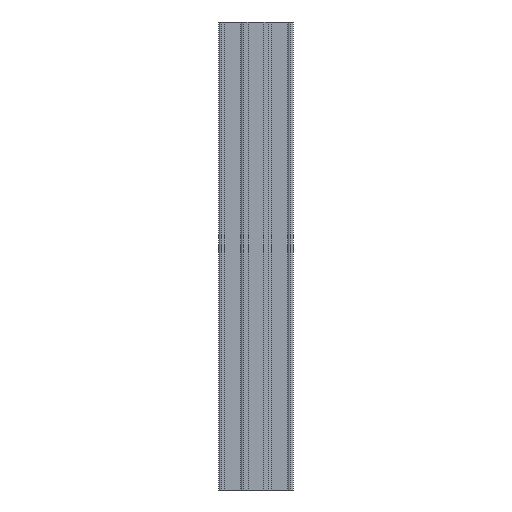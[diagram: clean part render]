
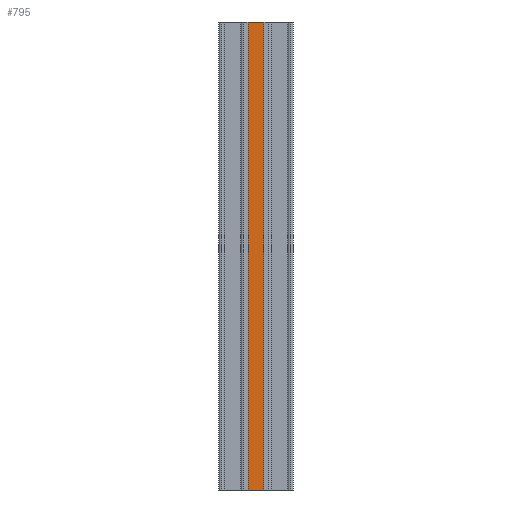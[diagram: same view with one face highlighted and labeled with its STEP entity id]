
A CAD part, left-side view. The second image highlights one B-rep face of the part: STEP entity #795.
In plain terms, the highlighted planar face has unit normal (-1, 0, 0).
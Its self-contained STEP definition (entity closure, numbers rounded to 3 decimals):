
#12 = PLANE ( 'NONE',  #507 ) ;
#61 = ORIENTED_EDGE ( 'NONE', *, *, #294, .T. ) ;
#127 = LINE ( 'NONE', #893, #319 ) ;
#142 = ORIENTED_EDGE ( 'NONE', *, *, #401, .F. ) ;
#153 = CARTESIAN_POINT ( 'NONE',  ( -1.5, -18.5, 250. ) ) ;
#228 = CARTESIAN_POINT ( 'NONE',  ( -1.5, -18.5, 250. ) ) ;
#251 = VERTEX_POINT ( 'NONE', #228 ) ;
#266 = VECTOR ( 'NONE', #712, 1000. ) ;
#286 = EDGE_CURVE ( 'NONE', #338, #251, #1112, .T. ) ;
#294 = EDGE_CURVE ( 'NONE', #600, #1213, #127, .T. ) ;
#319 = VECTOR ( 'NONE', #1310, 1000. ) ;
#338 = VERTEX_POINT ( 'NONE', #460 ) ;
#401 = EDGE_CURVE ( 'NONE', #251, #1213, #1334, .T. ) ;
#448 = DIRECTION ( 'NONE',  ( 0., 0., -1. ) ) ;
#460 = CARTESIAN_POINT ( 'NONE',  ( -1.5, 18.5, 250. ) ) ;
#507 = AXIS2_PLACEMENT_3D ( 'NONE', #1195, #872, #448 ) ;
#546 = DIRECTION ( 'NONE',  ( 0., -1., 0. ) ) ;
#570 = DIRECTION ( 'NONE',  ( 0., 0., -1. ) ) ;
#590 = EDGE_LOOP ( 'NONE', ( #61, #142, #1126, #980 ) ) ;
#597 = CARTESIAN_POINT ( 'NONE',  ( -1.5, 18.5, 250. ) ) ;
#600 = VERTEX_POINT ( 'NONE', #1250 ) ;
#668 = CARTESIAN_POINT ( 'NONE',  ( -1.5, 18.5, 250. ) ) ;
#712 = DIRECTION ( 'NONE',  ( 0., 0., -1. ) ) ;
#726 = FACE_OUTER_BOUND ( 'NONE', #590, .T. ) ;
#776 = CARTESIAN_POINT ( 'NONE',  ( -1.5, -18.5, 0. ) ) ;
#795 = ADVANCED_FACE ( 'NONE', ( #726 ), #12, .F. ) ;
#872 = DIRECTION ( 'NONE',  ( 1., 0., 0. ) ) ;
#893 = CARTESIAN_POINT ( 'NONE',  ( -1.5, 18.5, 0. ) ) ;
#947 = VECTOR ( 'NONE', #546, 1000. ) ;
#954 = LINE ( 'NONE', #597, #266 ) ;
#980 = ORIENTED_EDGE ( 'NONE', *, *, #1074, .T. ) ;
#1074 = EDGE_CURVE ( 'NONE', #338, #600, #954, .T. ) ;
#1112 = LINE ( 'NONE', #668, #947 ) ;
#1126 = ORIENTED_EDGE ( 'NONE', *, *, #286, .F. ) ;
#1195 = CARTESIAN_POINT ( 'NONE',  ( -1.5, 18.5, 250. ) ) ;
#1213 = VERTEX_POINT ( 'NONE', #776 ) ;
#1250 = CARTESIAN_POINT ( 'NONE',  ( -1.5, 18.5, 0. ) ) ;
#1264 = VECTOR ( 'NONE', #570, 1000. ) ;
#1310 = DIRECTION ( 'NONE',  ( 0., -1., 0. ) ) ;
#1334 = LINE ( 'NONE', #153, #1264 ) ;
